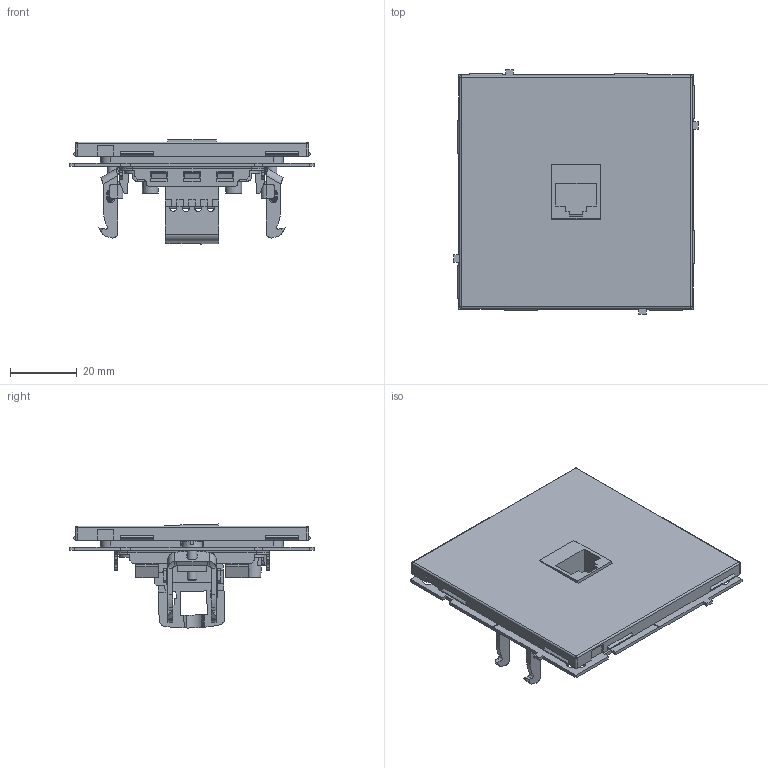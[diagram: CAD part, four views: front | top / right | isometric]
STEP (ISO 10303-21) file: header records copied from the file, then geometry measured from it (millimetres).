
FILE_DESCRIPTION (( 'STEP AP203' ), '1' );
FILE_NAME ('7010663.STEP', '2025-12-05T08:01:02', ( '' ), ( '' ), 'SwSTEP 2.0', 'SolidWorks 2022', '' );
FILE_SCHEMA (( 'CONFIG_CONTROL_DESIGN' ));
Length unit declared in the file: millimetre
Products named in the file (1): 7010663
Bounding box: 73.5 x 73.5 x 31.23 mm (x, y, z)
Volume: 37659.9 mm3; surface area: 25865.3 mm2
Topology: 3 solids, 5 shells, 1103 faces, 3162 edges, 2033 vertices
Faces by surface type: plane 683, cylinder 304, cone 52, torus 42, bspline 18, sphere 4
Full cylindrical faces by diameter (mm): 3 x4, 3.3 x2
Entity records: 36920 total; most frequent: CARTESIAN_POINT 7955, ORIENTED_EDGE 6258, DIRECTION 5814, EDGE_CURVE 3129, VECTOR 2230, LINE 2230, VERTEX_POINT 2020, AXIS2_PLACEMENT_3D 1792
